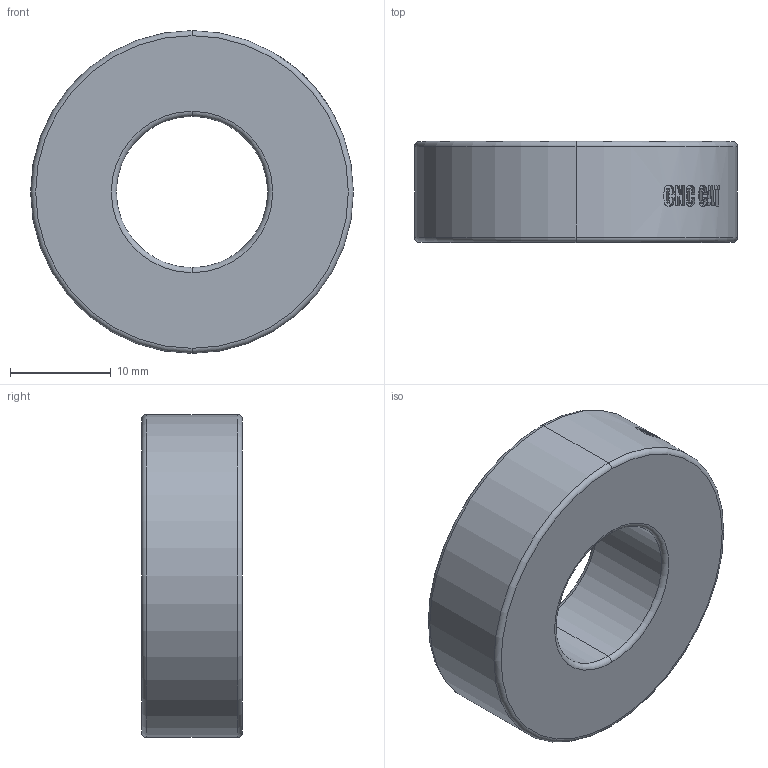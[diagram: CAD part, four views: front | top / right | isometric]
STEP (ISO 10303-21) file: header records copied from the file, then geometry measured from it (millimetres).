
FILE_DESCRIPTION (( 'STEP AP203' ), '1' );
FILE_NAME ('15X32X10mm.STEP', '2017-08-13T07:39:19', ( '' ), ( '' ), 'SwSTEP 2.0', 'SolidWorks 2014', '' );
FILE_SCHEMA (( 'CONFIG_CONTROL_DESIGN' ));
Length unit declared in the file: millimetre
Products named in the file (1): 15X32X10mm
Bounding box: 32 x 10 x 32 mm (x, y, z)
Volume: 6255.7 mm3; surface area: 2683.4 mm2
Topology: 1 solids, 1 shells, 98 faces, 259 edges, 170 vertices
Faces by surface type: plane 47, bspline 32, cylinder 11, torus 8
Entity records: 6638 total; most frequent: CARTESIAN_POINT 4390, ORIENTED_EDGE 518, DIRECTION 340, EDGE_CURVE 259, VERTEX_POINT 170, AXIS2_PLACEMENT_3D 129, B_SPLINE_CURVE_WITH_KNOTS 115, EDGE_LOOP 107
